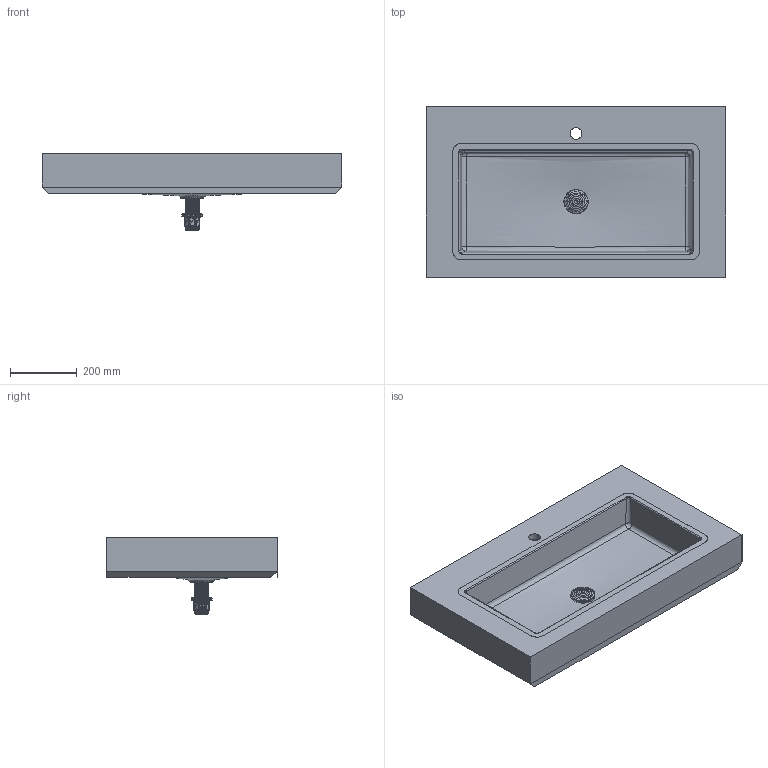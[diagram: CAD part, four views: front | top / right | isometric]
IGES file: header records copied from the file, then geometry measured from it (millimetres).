
Start section: Data from Parasolid IGES Translator 19.0.9, Copyright(c) 2006 Siemens PL M Software. All Rights Reserved.
Global section: file name: noorth-top-H 11,9 D 51,3 W 90_6542.igs; native system: By Siemens PLM Incorporated; preprocessor: XPlus GENERIC/IGES 19.0.9; author: Noname; organization: Noname; date: 20200603.085209; units: metre
Bounding box: 900 x 512 x 230.13 mm (x, y, z)
Volume: 12266272.3 mm3; surface area: 1837549.6 mm2
Topology: 2 solids, 2 shells, 11710 faces, 35074 edges, 34983 vertices
Faces by surface type: extrusion 11618, bspline 48, plane 35, cylinder 6, cone 3
Full cylindrical faces by diameter (mm): 34.9 x1, 45 x1
